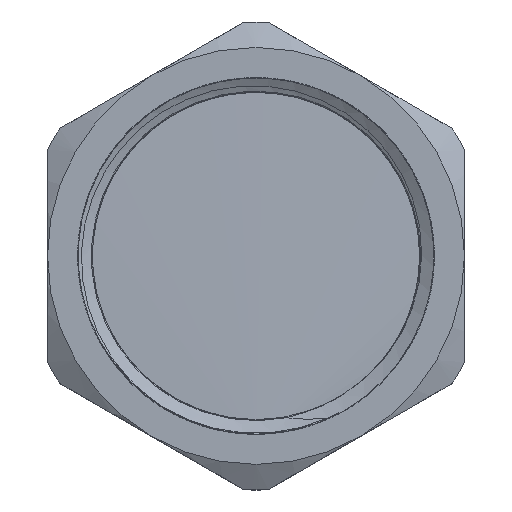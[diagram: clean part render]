
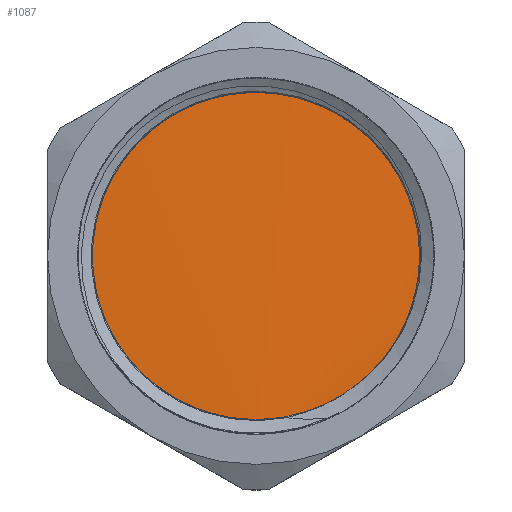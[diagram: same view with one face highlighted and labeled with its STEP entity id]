
A CAD part, top view. The second image highlights one B-rep face of the part: STEP entity #1087.
In plain terms, the highlighted cylindrical face has radius 22.42 mm (diameter 44.84 mm), a full revolution.
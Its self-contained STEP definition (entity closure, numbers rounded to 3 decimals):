
#26=B_SPLINE_CURVE_WITH_KNOTS('',3,(#1666,#1667,#1668,#1669,#1670,#1671,
#1672,#1673,#1674,#1675,#1676,#1677,#1678,#1679,#1680,#1681,#1682,#1683,
#1684,#1685,#1686,#1687,#1688,#1689,#1690,#1691,#1692,#1693,#1694,#1695,
#1696,#1697,#1698,#1699,#1700,#1701,#1702,#1703,#1704,#1705,#1706,#1707,
#1708),.UNSPECIFIED.,.F.,.F.,(4,3,3,3,3,3,3,3,3,3,3,3,3,3,4),(-43.982,
-43.816,-43.322,-42.828,-42.333,
-41.839,-41.345,-40.851,-40.356,
-39.862,-39.368,-38.874,-38.379,
-37.885,-37.699),.UNSPECIFIED.);
#150=LINE('',#1663,#191);
#151=LINE('',#1665,#192);
#191=VECTOR('',#1365,22.42);
#192=VECTOR('',#1366,22.42);
#219=CYLINDRICAL_SURFACE('',#1198,22.42);
#264=FACE_OUTER_BOUND('',#332,.T.);
#332=EDGE_LOOP('',(#826,#827,#828));
#466=VERTEX_POINT('',#1616);
#467=VERTEX_POINT('',#1662);
#468=VERTEX_POINT('',#1664);
#599=EDGE_CURVE('',#467,#466,#150,.T.);
#600=EDGE_CURVE('',#467,#468,#151,.T.);
#601=EDGE_CURVE('',#468,#466,#26,.T.);
#826=ORIENTED_EDGE('',*,*,#599,.F.);
#827=ORIENTED_EDGE('',*,*,#600,.T.);
#828=ORIENTED_EDGE('',*,*,#601,.T.);
#1087=ADVANCED_FACE('',(#264),#219,.T.);
#1198=AXIS2_PLACEMENT_3D('',#1661,#1363,#1364);
#1363=DIRECTION('center_axis',(0.,0.,-1.));
#1364=DIRECTION('ref_axis',(0.,1.,0.));
#1365=DIRECTION('',(0.,0.,-1.));
#1366=DIRECTION('',(0.,0.,1.));
#1616=CARTESIAN_POINT('',(0.,-22.42,11.568));
#1661=CARTESIAN_POINT('Origin',(0.,0.,8.));
#1662=CARTESIAN_POINT('',(0.,-22.42,13.86));
#1663=CARTESIAN_POINT('',(0.,-22.42,8.));
#1664=CARTESIAN_POINT('',(0.,-22.42,13.879));
#1665=CARTESIAN_POINT('',(0.,-22.42,8.));
#1666=CARTESIAN_POINT('Ctrl Pts',(0.,-22.419,
13.879));
#1667=CARTESIAN_POINT('Ctrl Pts',(-1.241,-22.42,13.859));
#1668=CARTESIAN_POINT('Ctrl Pts',(-2.482,-22.319,13.838));
#1669=CARTESIAN_POINT('Ctrl Pts',(-3.706,-22.114,13.818));
#1670=CARTESIAN_POINT('Ctrl Pts',(-7.348,-21.503,13.757));
#1671=CARTESIAN_POINT('Ctrl Pts',(-10.836,-19.974,13.697));
#1672=CARTESIAN_POINT('Ctrl Pts',(-13.752,-17.709,13.636));
#1673=CARTESIAN_POINT('Ctrl Pts',(-16.669,-15.444,13.576));
#1674=CARTESIAN_POINT('Ctrl Pts',(-19.014,-12.443,13.515));
#1675=CARTESIAN_POINT('Ctrl Pts',(-20.507,-9.066,13.454));
#1676=CARTESIAN_POINT('Ctrl Pts',(-22.001,-5.688,13.394));
#1677=CARTESIAN_POINT('Ctrl Pts',(-22.641,-1.934,13.333));
#1678=CARTESIAN_POINT('Ctrl Pts',(-22.354,1.748,13.273));
#1679=CARTESIAN_POINT('Ctrl Pts',(-22.066,5.429,13.212));
#1680=CARTESIAN_POINT('Ctrl Pts',(-20.849,9.038,13.151));
#1681=CARTESIAN_POINT('Ctrl Pts',(-18.849,12.143,13.091));
#1682=CARTESIAN_POINT('Ctrl Pts',(-16.849,15.247,13.03));
#1683=CARTESIAN_POINT('Ctrl Pts',(-14.066,17.847,12.97));
#1684=CARTESIAN_POINT('Ctrl Pts',(-10.833,19.631,12.909));
#1685=CARTESIAN_POINT('Ctrl Pts',(-7.599,21.416,12.848));
#1686=CARTESIAN_POINT('Ctrl Pts',(-3.916,22.384,12.788));
#1687=CARTESIAN_POINT('Ctrl Pts',(-0.223,22.421,12.727));
#1688=CARTESIAN_POINT('Ctrl Pts',(3.469,22.458,12.667));
#1689=CARTESIAN_POINT('Ctrl Pts',(7.171,21.563,12.606));
#1690=CARTESIAN_POINT('Ctrl Pts',(10.439,19.843,12.545));
#1691=CARTESIAN_POINT('Ctrl Pts',(13.708,18.124,12.485));
#1692=CARTESIAN_POINT('Ctrl Pts',(16.542,15.58,12.424));
#1693=CARTESIAN_POINT('Ctrl Pts',(18.603,12.516,12.363));
#1694=CARTESIAN_POINT('Ctrl Pts',(20.665,9.452,12.303));
#1695=CARTESIAN_POINT('Ctrl Pts',(21.953,5.868,12.242));
#1696=CARTESIAN_POINT('Ctrl Pts',(22.314,2.193,12.182));
#1697=CARTESIAN_POINT('Ctrl Pts',(22.676,-1.482,12.121));
#1698=CARTESIAN_POINT('Ctrl Pts',(22.11,-5.248,12.06));
#1699=CARTESIAN_POINT('Ctrl Pts',(20.684,-8.655,12.));
#1700=CARTESIAN_POINT('Ctrl Pts',(19.259,-12.062,11.939));
#1701=CARTESIAN_POINT('Ctrl Pts',(16.974,-15.109,11.879));
#1702=CARTESIAN_POINT('Ctrl Pts',(14.103,-17.431,11.818));
#1703=CARTESIAN_POINT('Ctrl Pts',(11.232,-19.754,11.757));
#1704=CARTESIAN_POINT('Ctrl Pts',(7.775,-21.353,11.697));
#1705=CARTESIAN_POINT('Ctrl Pts',(4.146,-22.035,11.636));
#1706=CARTESIAN_POINT('Ctrl Pts',(2.78,-22.292,11.613));
#1707=CARTESIAN_POINT('Ctrl Pts',(1.39,-22.419,11.591));
#1708=CARTESIAN_POINT('Ctrl Pts',(0.,-22.419,
11.568));
